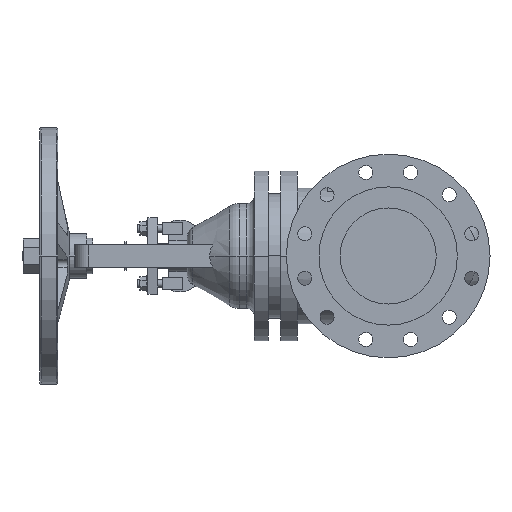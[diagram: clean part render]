
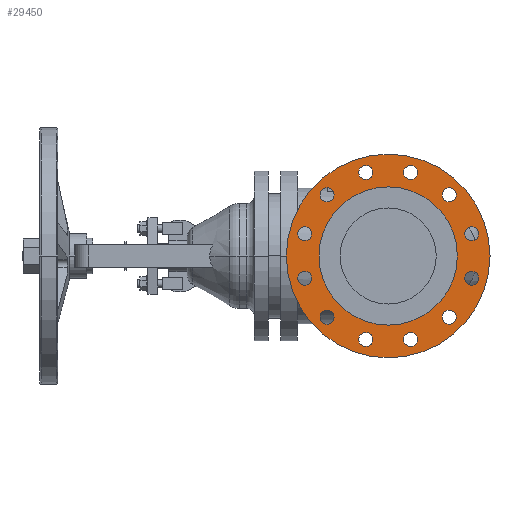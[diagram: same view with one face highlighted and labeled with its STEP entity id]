
A CAD part, left-side view. The second image highlights one B-rep face of the part: STEP entity #29450.
In plain terms, the highlighted planar face has unit normal (-1, 0, 0).
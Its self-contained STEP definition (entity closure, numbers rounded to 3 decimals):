
#5240=CARTESIAN_POINT('',(1.6,0.,-159.));
#5250=VERTEX_POINT('',#5240);
#5280=CARTESIAN_POINT('',(1.6,0.,0.));
#5290=DIRECTION('',(1.,0.,0.));
#5300=DIRECTION('',(0.,0.,-1.));
#5310=AXIS2_PLACEMENT_3D('',#5280,#5290,#5300);
#5320=CIRCLE('',#5310,159.);
#5330=CARTESIAN_POINT('',(1.6,0.,159.));
#5340=VERTEX_POINT('',#5330);
#5350=EDGE_CURVE('',#5340,#5250,#5320,.T.);
#5730=CARTESIAN_POINT('',(1.6,34.941,
-119.4));
#5740=VERTEX_POINT('',#5730);
#5770=CARTESIAN_POINT('',(1.6,34.941,
-130.4));
#5780=DIRECTION('',(-1.,0.,0.));
#5790=DIRECTION('',(0.,0.,-1.));
#5800=AXIS2_PLACEMENT_3D('',#5770,#5780,#5790);
#5810=CIRCLE('',#5800,11.);
#5820=CARTESIAN_POINT('',(1.6,34.941,
-141.4));
#5830=VERTEX_POINT('',#5820);
#5840=EDGE_CURVE('',#5830,#5740,#5810,.T.);
#6220=CARTESIAN_POINT('',(1.6,-34.941,
-119.4));
#6230=VERTEX_POINT('',#6220);
#6390=CARTESIAN_POINT('',(1.6,-34.941,
-141.4));
#6400=VERTEX_POINT('',#6390);
#6430=CARTESIAN_POINT('',(1.6,-34.941,
-130.4));
#6440=DIRECTION('',(-1.,0.,0.));
#6450=DIRECTION('',(0.,0.,-1.));
#6460=AXIS2_PLACEMENT_3D('',#6430,#6440,#6450);
#6470=CIRCLE('',#6460,11.);
#6480=EDGE_CURVE('',#6230,#6400,#6470,.T.);
#6710=CARTESIAN_POINT('',(1.6,95.459,
-84.459));
#6720=VERTEX_POINT('',#6710);
#6880=CARTESIAN_POINT('',(1.6,95.459,
-106.459));
#6890=VERTEX_POINT('',#6880);
#6920=CARTESIAN_POINT('',(1.6,95.459,
-95.459));
#6930=DIRECTION('',(-1.,0.,0.));
#6940=DIRECTION('',(0.,0.,-1.));
#6950=AXIS2_PLACEMENT_3D('',#6920,#6930,#6940);
#6960=CIRCLE('',#6950,11.);
#6970=EDGE_CURVE('',#6720,#6890,#6960,.T.);
#7200=CARTESIAN_POINT('',(1.6,-95.459,
-84.459));
#7210=VERTEX_POINT('',#7200);
#7240=CARTESIAN_POINT('',(1.6,-95.459,
-95.459));
#7250=DIRECTION('',(-1.,0.,0.));
#7260=DIRECTION('',(0.,0.,-1.));
#7270=AXIS2_PLACEMENT_3D('',#7240,#7250,#7260);
#7280=CIRCLE('',#7270,11.);
#7290=CARTESIAN_POINT('',(1.6,-95.459,
-106.459));
#7300=VERTEX_POINT('',#7290);
#7310=EDGE_CURVE('',#7300,#7210,#7280,.T.);
#7690=CARTESIAN_POINT('',(1.6,130.4,
-23.941));
#7700=VERTEX_POINT('',#7690);
#7860=CARTESIAN_POINT('',(1.6,130.4,
-45.941));
#7870=VERTEX_POINT('',#7860);
#7900=CARTESIAN_POINT('',(1.6,130.4,
-34.941));
#7910=DIRECTION('',(-1.,0.,0.));
#7920=DIRECTION('',(0.,0.,-1.));
#7930=AXIS2_PLACEMENT_3D('',#7900,#7910,#7920);
#7940=CIRCLE('',#7930,11.);
#7950=EDGE_CURVE('',#7700,#7870,#7940,.T.);
#8180=CARTESIAN_POINT('',(1.6,-130.4,
-45.941));
#8190=VERTEX_POINT('',#8180);
#8220=CARTESIAN_POINT('',(1.6,-130.4,
-34.941));
#8230=DIRECTION('',(-1.,0.,0.));
#8240=DIRECTION('',(0.,0.,-1.));
#8250=AXIS2_PLACEMENT_3D('',#8220,#8230,#8240);
#8260=CIRCLE('',#8250,11.);
#8270=CARTESIAN_POINT('',(1.6,-130.4,
-23.941));
#8280=VERTEX_POINT('',#8270);
#8290=EDGE_CURVE('',#8280,#8190,#8260,.T.);
#8670=CARTESIAN_POINT('',(1.6,130.4,
23.941));
#8680=VERTEX_POINT('',#8670);
#8840=CARTESIAN_POINT('',(1.6,130.4,
45.941));
#8850=VERTEX_POINT('',#8840);
#8880=CARTESIAN_POINT('',(1.6,130.4,
34.941));
#8890=DIRECTION('',(-1.,0.,0.));
#8900=DIRECTION('',(0.,0.,-1.));
#8910=AXIS2_PLACEMENT_3D('',#8880,#8890,#8900);
#8920=CIRCLE('',#8910,11.);
#8930=EDGE_CURVE('',#8680,#8850,#8920,.T.);
#9160=CARTESIAN_POINT('',(1.6,-130.4,
23.941));
#9170=VERTEX_POINT('',#9160);
#9330=CARTESIAN_POINT('',(1.6,-130.4,
45.941));
#9340=VERTEX_POINT('',#9330);
#9370=CARTESIAN_POINT('',(1.6,-130.4,
34.941));
#9380=DIRECTION('',(-1.,0.,0.));
#9390=DIRECTION('',(0.,0.,-1.));
#9400=AXIS2_PLACEMENT_3D('',#9370,#9380,#9390);
#9410=CIRCLE('',#9400,11.);
#9420=EDGE_CURVE('',#9170,#9340,#9410,.T.);
#9650=CARTESIAN_POINT('',(1.6,95.459,
106.459));
#9660=VERTEX_POINT('',#9650);
#9820=CARTESIAN_POINT('',(1.6,95.459,
84.459));
#9830=VERTEX_POINT('',#9820);
#9860=CARTESIAN_POINT('',(1.6,95.459,
95.459));
#9870=DIRECTION('',(-1.,0.,0.));
#9880=DIRECTION('',(0.,0.,-1.));
#9890=AXIS2_PLACEMENT_3D('',#9860,#9870,#9880);
#9900=CIRCLE('',#9890,11.);
#9910=EDGE_CURVE('',#9660,#9830,#9900,.T.);
#10140=CARTESIAN_POINT('',(1.6,-95.459,
84.459));
#10150=VERTEX_POINT('',#10140);
#10180=CARTESIAN_POINT('',(1.6,-95.459,
95.459));
#10190=DIRECTION('',(-1.,0.,0.));
#10200=DIRECTION('',(0.,0.,-1.));
#10210=AXIS2_PLACEMENT_3D('',#10180,#10190,#10200);
#10220=CIRCLE('',#10210,11.);
#10230=CARTESIAN_POINT('',(1.6,-95.459,
106.459));
#10240=VERTEX_POINT('',#10230);
#10250=EDGE_CURVE('',#10240,#10150,#10220,.T.);
#10630=CARTESIAN_POINT('',(1.6,34.941,
141.4));
#10640=VERTEX_POINT('',#10630);
#10800=CARTESIAN_POINT('',(1.6,34.941,
119.4));
#10810=VERTEX_POINT('',#10800);
#10840=CARTESIAN_POINT('',(1.6,34.941,
130.4));
#10850=DIRECTION('',(-1.,0.,0.));
#10860=DIRECTION('',(0.,0.,-1.));
#10870=AXIS2_PLACEMENT_3D('',#10840,#10850,#10860);
#10880=CIRCLE('',#10870,11.);
#10890=EDGE_CURVE('',#10640,#10810,#10880,.T.);
#11120=CARTESIAN_POINT('',(1.6,-34.941,
119.4));
#11130=VERTEX_POINT('',#11120);
#11160=CARTESIAN_POINT('',(1.6,-34.941,
130.4));
#11170=DIRECTION('',(-1.,0.,0.));
#11180=DIRECTION('',(0.,0.,-1.));
#11190=AXIS2_PLACEMENT_3D('',#11160,#11170,#11180);
#11200=CIRCLE('',#11190,11.);
#11210=CARTESIAN_POINT('',(1.6,-34.941,
141.4));
#11220=VERTEX_POINT('',#11210);
#11230=EDGE_CURVE('',#11220,#11130,#11200,.T.);
#11610=CARTESIAN_POINT('',(1.6,108.,0.))
;
#11620=VERTEX_POINT('',#11610);
#11650=CARTESIAN_POINT('',(1.6,0.,0.));
#11660=DIRECTION('',(-1.,0.,0.));
#11670=DIRECTION('',(0.,1.,0.));
#11680=AXIS2_PLACEMENT_3D('',#11650,#11660,#11670);
#11690=CIRCLE('',#11680,108.);
#11700=CARTESIAN_POINT('',(1.6,-108.,0.))
;
#11710=VERTEX_POINT('',#11700);
#11720=EDGE_CURVE('',#11710,#11620,#11690,.T.);
#28700=CARTESIAN_POINT('',(1.6,133.5,0.)
);
#28710=DIRECTION('',(1.,0.,0.));
#28720=DIRECTION('',(0.,-1.,0.));
#28730=AXIS2_PLACEMENT_3D('',#28700,#28710,#28720);
#28740=PLANE('',#28730);
#28750=ORIENTED_EDGE('',*,*,#11720,.F.);
#28760=EDGE_CURVE('',#11620,#11710,#11690,.T.);
#28770=ORIENTED_EDGE('',*,*,#28760,.F.);
#28780=EDGE_LOOP('',(#28770,#28750));
#28790=FACE_BOUND('',#28780,.T.);
#28800=EDGE_CURVE('',#5250,#5340,#5320,.T.);
#28810=ORIENTED_EDGE('',*,*,#28800,.F.);
#28820=ORIENTED_EDGE('',*,*,#5350,.F.);
#28830=EDGE_LOOP('',(#28820,#28810));
#28840=FACE_OUTER_BOUND('',#28830,.T.);
#28850=ORIENTED_EDGE('',*,*,#5840,.F.);
#28860=EDGE_CURVE('',#5740,#5830,#5810,.T.);
#28870=ORIENTED_EDGE('',*,*,#28860,.F.);
#28880=EDGE_LOOP('',(#28870,#28850));
#28890=FACE_BOUND('',#28880,.T.);
#28900=EDGE_CURVE('',#6400,#6230,#6470,.T.);
#28910=ORIENTED_EDGE('',*,*,#28900,.F.);
#28920=ORIENTED_EDGE('',*,*,#6480,.F.);
#28930=EDGE_LOOP('',(#28920,#28910));
#28940=FACE_BOUND('',#28930,.T.);
#28950=EDGE_CURVE('',#6890,#6720,#6960,.T.);
#28960=ORIENTED_EDGE('',*,*,#28950,.F.);
#28970=ORIENTED_EDGE('',*,*,#6970,.F.);
#28980=EDGE_LOOP('',(#28970,#28960));
#28990=FACE_BOUND('',#28980,.T.);
#29000=ORIENTED_EDGE('',*,*,#7310,.F.);
#29010=EDGE_CURVE('',#7210,#7300,#7280,.T.);
#29020=ORIENTED_EDGE('',*,*,#29010,.F.);
#29030=EDGE_LOOP('',(#29020,#29000));
#29040=FACE_BOUND('',#29030,.T.);
#29050=EDGE_CURVE('',#7870,#7700,#7940,.T.);
#29060=ORIENTED_EDGE('',*,*,#29050,.F.);
#29070=ORIENTED_EDGE('',*,*,#7950,.F.);
#29080=EDGE_LOOP('',(#29070,#29060));
#29090=FACE_BOUND('',#29080,.T.);
#29100=ORIENTED_EDGE('',*,*,#8290,.F.);
#29110=EDGE_CURVE('',#8190,#8280,#8260,.T.);
#29120=ORIENTED_EDGE('',*,*,#29110,.F.);
#29130=EDGE_LOOP('',(#29120,#29100));
#29140=FACE_BOUND('',#29130,.T.);
#29150=EDGE_CURVE('',#8850,#8680,#8920,.T.);
#29160=ORIENTED_EDGE('',*,*,#29150,.F.);
#29170=ORIENTED_EDGE('',*,*,#8930,.F.);
#29180=EDGE_LOOP('',(#29170,#29160));
#29190=FACE_BOUND('',#29180,.T.);
#29200=EDGE_CURVE('',#9340,#9170,#9410,.T.);
#29210=ORIENTED_EDGE('',*,*,#29200,.F.);
#29220=ORIENTED_EDGE('',*,*,#9420,.F.);
#29230=EDGE_LOOP('',(#29220,#29210));
#29240=FACE_BOUND('',#29230,.T.);
#29250=EDGE_CURVE('',#9830,#9660,#9900,.T.);
#29260=ORIENTED_EDGE('',*,*,#29250,.F.);
#29270=ORIENTED_EDGE('',*,*,#9910,.F.);
#29280=EDGE_LOOP('',(#29270,#29260));
#29290=FACE_BOUND('',#29280,.T.);
#29300=EDGE_CURVE('',#10150,#10240,#10220,.T.);
#29310=ORIENTED_EDGE('',*,*,#29300,.F.);
#29320=ORIENTED_EDGE('',*,*,#10250,.F.);
#29330=EDGE_LOOP('',(#29320,#29310));
#29340=FACE_BOUND('',#29330,.T.);
#29350=EDGE_CURVE('',#10810,#10640,#10880,.T.);
#29360=ORIENTED_EDGE('',*,*,#29350,.F.);
#29370=ORIENTED_EDGE('',*,*,#10890,.F.);
#29380=EDGE_LOOP('',(#29370,#29360));
#29390=FACE_BOUND('',#29380,.T.);
#29400=EDGE_CURVE('',#11130,#11220,#11200,.T.);
#29410=ORIENTED_EDGE('',*,*,#29400,.F.);
#29420=ORIENTED_EDGE('',*,*,#11230,.F.);
#29430=EDGE_LOOP('',(#29420,#29410));
#29440=FACE_BOUND('',#29430,.T.);
#29450=ADVANCED_FACE('',(#28790,#28840,#28890,#28940,#28990,#29040,
#29090,#29140,#29190,#29240,#29290,#29340,#29390,#29440),#28740,.F.);
